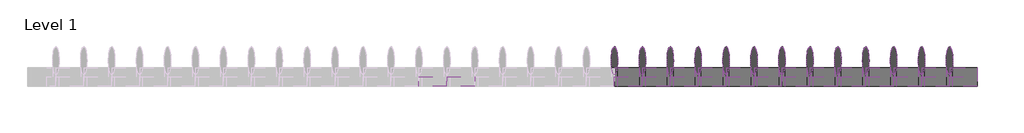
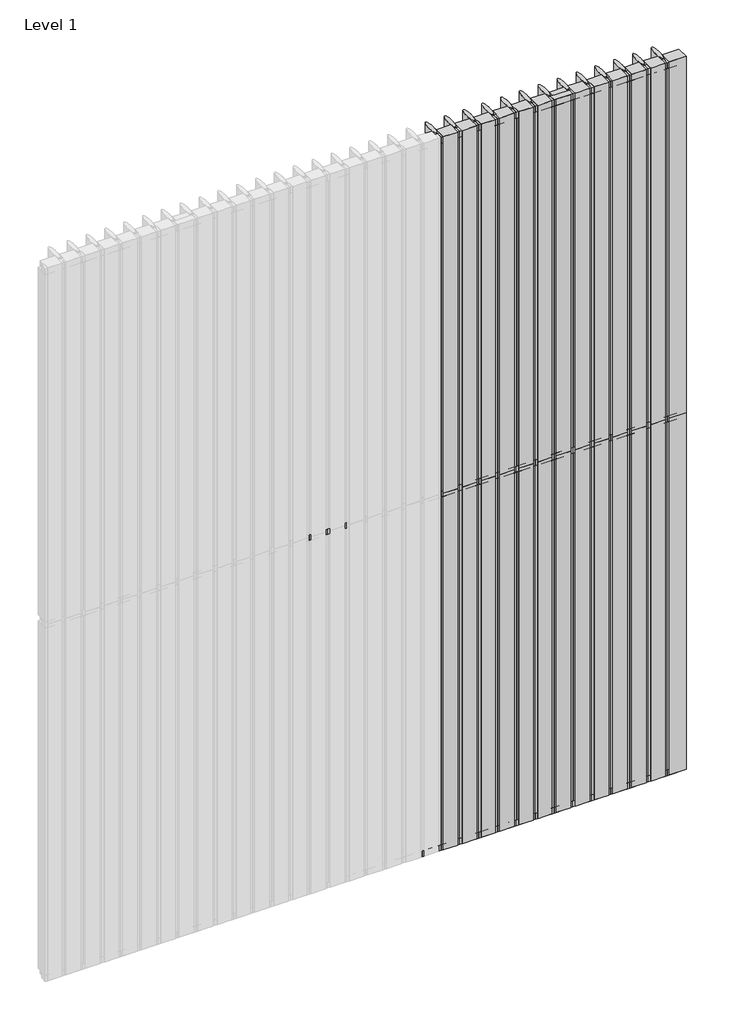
# One storey, part 3 of 3: 68 members, 52 plates.
"""IFC4 building model written with IfcOpenShell, lengths in millimetres."""

from ifc_helpers import new_model, si_unit, origin, place, context, project, spatial, transform, mapped, element, save
from components import rectangular_mullion_822d50ae, rectangular_mullion_64cc6fdd, rectangular_mullion_6265e8b1, rectangular_mullion_eb4a5411, empty_system_panel_empty_b0baf43e, empty_system_panel_empty_d245318e, empty_system_panel_empty_64907904

model = new_model("IFC4")

# Units and contexts
model_context = context("Model", 3, world=origin())
ifc_project = project(units=[si_unit("LENGTHUNIT", "METRE", prefix="MILLI")], contexts=[model_context])

# Site, building, storey
site = spatial("IfcSite", under=ifc_project)
building = spatial("IfcBuilding", under=site)
storey = spatial("IfcBuildingStorey", under=building, Name="Level 1", Elevation=0.0)

# Members
placement = place(None, origin())
rectangular_mullion_shape = rectangular_mullion_822d50ae(model_context)
element("IfcMember", 1, ObjectType="Rectangular Mullion : RSen_21_CWM_blade - 150 ellips - 0°_gen_duco projects", at=placement, inside=storey, context=model_context, shape_type="MappedRepresentation", body=[
    mapped(rectangular_mullion_shape, transform((5850.0, 3000.0, 0.0), x_axis=(-1.0, 0.0, 0.0), y_axis=(0.0, 1.0, 0.0), z_axis=(0.0, 0.0, -1.0))),
])
element("IfcMember", 2, ObjectType="Rectangular Mullion : RSen_21_CWM_blade - 150 ellips - 0°_gen_duco projects", at=placement, inside=storey, context=model_context, shape_type="MappedRepresentation", body=[
    mapped(rectangular_mullion_shape, transform((5700.0, 3000.0, 0.0), x_axis=(-1.0, 0.0, 0.0), y_axis=(0.0, 1.0, 0.0), z_axis=(0.0, 0.0, -1.0))),
])
element("IfcMember", 3, ObjectType="Rectangular Mullion : RSen_21_CWM_blade - 150 ellips - 0°_gen_duco projects", at=placement, inside=storey, context=model_context, shape_type="MappedRepresentation", body=[
    mapped(rectangular_mullion_shape, transform((5550.0, 3000.0, 0.0), x_axis=(-1.0, 0.0, 0.0), y_axis=(0.0, 1.0, 0.0), z_axis=(0.0, 0.0, -1.0))),
])
element("IfcMember", 4, ObjectType="Rectangular Mullion : RSen_21_CWM_blade - 150 ellips - 0°_gen_duco projects", at=placement, inside=storey, context=model_context, shape_type="MappedRepresentation", body=[
    mapped(rectangular_mullion_shape, transform((5400.0, 3000.0, 0.0), x_axis=(-1.0, 0.0, 0.0), y_axis=(0.0, 1.0, 0.0), z_axis=(0.0, 0.0, -1.0))),
])
element("IfcMember", 5, ObjectType="Rectangular Mullion : RSen_21_CWM_blade - 150 ellips - 0°_gen_duco projects", at=placement, inside=storey, context=model_context, shape_type="MappedRepresentation", body=[
    mapped(rectangular_mullion_shape, transform((5250.0, 3000.0, 0.0), x_axis=(-1.0, 0.0, 0.0), y_axis=(0.0, 1.0, 0.0), z_axis=(0.0, 0.0, -1.0))),
])
element("IfcMember", 6, ObjectType="Rectangular Mullion : RSen_21_CWM_blade - 150 ellips - 0°_gen_duco projects", at=placement, inside=storey, context=model_context, shape_type="MappedRepresentation", body=[
    mapped(rectangular_mullion_shape, transform((5100.0, 3000.0, 0.0), x_axis=(-1.0, 0.0, 0.0), y_axis=(0.0, 1.0, 0.0), z_axis=(0.0, 0.0, -1.0))),
])
element("IfcMember", 7, ObjectType="Rectangular Mullion : RSen_21_CWM_blade - 150 ellips - 0°_gen_duco projects", at=placement, inside=storey, context=model_context, shape_type="MappedRepresentation", body=[
    mapped(rectangular_mullion_shape, transform((4950.0, 3000.0, 0.0), x_axis=(-1.0, 0.0, 0.0), y_axis=(0.0, 1.0, 0.0), z_axis=(0.0, 0.0, -1.0))),
])
element("IfcMember", 8, ObjectType="Rectangular Mullion : RSen_21_CWM_blade - 150 ellips - 0°_gen_duco projects", at=placement, inside=storey, context=model_context, shape_type="MappedRepresentation", body=[
    mapped(rectangular_mullion_shape, transform((4800.0, 3000.0, 0.0), x_axis=(-1.0, 0.0, 0.0), y_axis=(0.0, 1.0, 0.0), z_axis=(0.0, 0.0, -1.0))),
])
element("IfcMember", 9, ObjectType="Rectangular Mullion : RSen_21_CWM_blade - 150 ellips - 0°_gen_duco projects", at=placement, inside=storey, context=model_context, shape_type="MappedRepresentation", body=[
    mapped(rectangular_mullion_shape, transform((4650.0, 3000.0, 0.0), x_axis=(-1.0, 0.0, 0.0), y_axis=(0.0, 1.0, 0.0), z_axis=(0.0, 0.0, -1.0))),
])
element("IfcMember", 10, ObjectType="Rectangular Mullion : RSen_21_CWM_blade - 150 ellips - 0°_gen_duco projects", at=placement, inside=storey, context=model_context, shape_type="MappedRepresentation", body=[
    mapped(rectangular_mullion_shape, transform((4500.0, 3000.0, 0.0), x_axis=(-1.0, 0.0, 0.0), y_axis=(0.0, 1.0, 0.0), z_axis=(0.0, 0.0, -1.0))),
])
element("IfcMember", 11, ObjectType="Rectangular Mullion : RSen_21_CWM_blade - 150 ellips - 0°_gen_duco projects", at=placement, inside=storey, context=model_context, shape_type="MappedRepresentation", body=[
    mapped(rectangular_mullion_shape, transform((4350.0, 3000.0, 0.0), x_axis=(-1.0, 0.0, 0.0), y_axis=(0.0, 1.0, 0.0), z_axis=(0.0, 0.0, -1.0))),
])
element("IfcMember", 12, ObjectType="Rectangular Mullion : RSen_21_CWM_blade - 150 ellips - 0°_gen_duco projects", at=placement, inside=storey, context=model_context, shape_type="MappedRepresentation", body=[
    mapped(rectangular_mullion_shape, transform((4200.0, 3000.0, 0.0), x_axis=(-1.0, 0.0, 0.0), y_axis=(0.0, 1.0, 0.0), z_axis=(0.0, 0.0, -1.0))),
])
element("IfcMember", 13, ObjectType="Rectangular Mullion : RSen_21_CWM_blade - 150 ellips - 0°_gen_duco projects", at=placement, inside=storey, context=model_context, shape_type="MappedRepresentation", body=[
    mapped(rectangular_mullion_shape, transform((4050.0, 3000.0, 0.0), x_axis=(-1.0, 0.0, 0.0), y_axis=(0.0, 1.0, 0.0), z_axis=(0.0, 0.0, -1.0))),
])
element("IfcMember", 14, ObjectType="Rectangular Mullion : RSen_21_CWM_blade - 150 ellips - 0°_gen_duco projects", at=placement, inside=storey, context=model_context, shape_type="MappedRepresentation", body=[
    mapped(rectangular_mullion_shape, transform((5850.0, 3000.0, 3000.0), x_axis=(-1.0, 0.0, 0.0), y_axis=(0.0, 1.0, 0.0), z_axis=(0.0, 0.0, -1.0))),
])
element("IfcMember", 15, ObjectType="Rectangular Mullion : RSen_21_CWM_blade - 150 ellips - 0°_gen_duco projects", at=placement, inside=storey, context=model_context, shape_type="MappedRepresentation", body=[
    mapped(rectangular_mullion_shape, transform((5700.0, 3000.0, 3000.0), x_axis=(-1.0, 0.0, 0.0), y_axis=(0.0, 1.0, 0.0), z_axis=(0.0, 0.0, -1.0))),
])
element("IfcMember", 16, ObjectType="Rectangular Mullion : RSen_21_CWM_blade - 150 ellips - 0°_gen_duco projects", at=placement, inside=storey, context=model_context, shape_type="MappedRepresentation", body=[
    mapped(rectangular_mullion_shape, transform((5550.0, 3000.0, 3000.0), x_axis=(-1.0, 0.0, 0.0), y_axis=(0.0, 1.0, 0.0), z_axis=(0.0, 0.0, -1.0))),
])
element("IfcMember", 17, ObjectType="Rectangular Mullion : RSen_21_CWM_blade - 150 ellips - 0°_gen_duco projects", at=placement, inside=storey, context=model_context, shape_type="MappedRepresentation", body=[
    mapped(rectangular_mullion_shape, transform((5400.0, 3000.0, 3000.0), x_axis=(-1.0, 0.0, 0.0), y_axis=(0.0, 1.0, 0.0), z_axis=(0.0, 0.0, -1.0))),
])
element("IfcMember", 18, ObjectType="Rectangular Mullion : RSen_21_CWM_blade - 150 ellips - 0°_gen_duco projects", at=placement, inside=storey, context=model_context, shape_type="MappedRepresentation", body=[
    mapped(rectangular_mullion_shape, transform((5250.0, 3000.0, 3000.0), x_axis=(-1.0, 0.0, 0.0), y_axis=(0.0, 1.0, 0.0), z_axis=(0.0, 0.0, -1.0))),
])
element("IfcMember", 19, ObjectType="Rectangular Mullion : RSen_21_CWM_blade - 150 ellips - 0°_gen_duco projects", at=placement, inside=storey, context=model_context, shape_type="MappedRepresentation", body=[
    mapped(rectangular_mullion_shape, transform((5100.0, 3000.0, 3000.0), x_axis=(-1.0, 0.0, 0.0), y_axis=(0.0, 1.0, 0.0), z_axis=(0.0, 0.0, -1.0))),
])
element("IfcMember", 20, ObjectType="Rectangular Mullion : RSen_21_CWM_blade - 150 ellips - 0°_gen_duco projects", at=placement, inside=storey, context=model_context, shape_type="MappedRepresentation", body=[
    mapped(rectangular_mullion_shape, transform((4950.0, 3000.0, 3000.0), x_axis=(-1.0, 0.0, 0.0), y_axis=(0.0, 1.0, 0.0), z_axis=(0.0, 0.0, -1.0))),
])
element("IfcMember", 21, ObjectType="Rectangular Mullion : RSen_21_CWM_blade - 150 ellips - 0°_gen_duco projects", at=placement, inside=storey, context=model_context, shape_type="MappedRepresentation", body=[
    mapped(rectangular_mullion_shape, transform((4800.0, 3000.0, 3000.0), x_axis=(-1.0, 0.0, 0.0), y_axis=(0.0, 1.0, 0.0), z_axis=(0.0, 0.0, -1.0))),
])
element("IfcMember", 22, ObjectType="Rectangular Mullion : RSen_21_CWM_blade - 150 ellips - 0°_gen_duco projects", at=placement, inside=storey, context=model_context, shape_type="MappedRepresentation", body=[
    mapped(rectangular_mullion_shape, transform((4650.0, 3000.0, 3000.0), x_axis=(-1.0, 0.0, 0.0), y_axis=(0.0, 1.0, 0.0), z_axis=(0.0, 0.0, -1.0))),
])
element("IfcMember", 23, ObjectType="Rectangular Mullion : RSen_21_CWM_blade - 150 ellips - 0°_gen_duco projects", at=placement, inside=storey, context=model_context, shape_type="MappedRepresentation", body=[
    mapped(rectangular_mullion_shape, transform((4500.0, 3000.0, 3000.0), x_axis=(-1.0, 0.0, 0.0), y_axis=(0.0, 1.0, 0.0), z_axis=(0.0, 0.0, -1.0))),
])
element("IfcMember", 24, ObjectType="Rectangular Mullion : RSen_21_CWM_blade - 150 ellips - 0°_gen_duco projects", at=placement, inside=storey, context=model_context, shape_type="MappedRepresentation", body=[
    mapped(rectangular_mullion_shape, transform((4350.0, 3000.0, 3000.0), x_axis=(-1.0, 0.0, 0.0), y_axis=(0.0, 1.0, 0.0), z_axis=(0.0, 0.0, -1.0))),
])
element("IfcMember", 25, ObjectType="Rectangular Mullion : RSen_21_CWM_blade - 150 ellips - 0°_gen_duco projects", at=placement, inside=storey, context=model_context, shape_type="MappedRepresentation", body=[
    mapped(rectangular_mullion_shape, transform((4200.0, 3000.0, 3000.0), x_axis=(-1.0, 0.0, 0.0), y_axis=(0.0, 1.0, 0.0), z_axis=(0.0, 0.0, -1.0))),
])
element("IfcMember", 26, ObjectType="Rectangular Mullion : RSen_21_CWM_blade - 150 ellips - 0°_gen_duco projects", at=placement, inside=storey, context=model_context, shape_type="MappedRepresentation", body=[
    mapped(rectangular_mullion_shape, transform((4050.0, 3000.0, 3000.0), x_axis=(-1.0, 0.0, 0.0), y_axis=(0.0, 1.0, 0.0), z_axis=(0.0, 0.0, -1.0))),
])
rectangular_mullion_2_shape = rectangular_mullion_64cc6fdd(model_context)
element("IfcMember", 27, ObjectType="Rectangular Mullion : RSen_21_CWM_support profile 50x50 - right_gen_duco projects", at=placement, inside=storey, context=model_context, shape_type="MappedRepresentation", body=[
    mapped(rectangular_mullion_2_shape, transform((6000.0, 3000.0, 0.0), x_axis=(0.0, 0.0, -1.0), y_axis=(0.0, 1.0, 0.0), z_axis=(1.0, 0.0, 0.0))),
])
rectangular_mullion_3_shape = rectangular_mullion_6265e8b1(model_context)
element("IfcMember", 28, ObjectType="Rectangular Mullion : RSen_21_CWM_support profile 50x50 - left_gen_duco projects", at=placement, inside=storey, context=model_context, shape_type="MappedRepresentation", body=[
    mapped(rectangular_mullion_3_shape, transform((5850.0, 3000.0, 6000.0), x_axis=(0.0, 0.0, 1.0), y_axis=(0.0, 1.0, 0.0), z_axis=(-1.0, 0.0, 0.0))),
])
element("IfcMember", 29, ObjectType="Rectangular Mullion : RSen_21_CWM_support profile 50x50 - left_gen_duco projects", at=placement, inside=storey, context=model_context, shape_type="MappedRepresentation", body=[
    mapped(rectangular_mullion_3_shape, transform((5700.0, 3000.0, 6000.0), x_axis=(0.0, 0.0, 1.0), y_axis=(0.0, 1.0, 0.0), z_axis=(-1.0, 0.0, 0.0))),
])
element("IfcMember", 30, ObjectType="Rectangular Mullion : RSen_21_CWM_support profile 50x50 - left_gen_duco projects", at=placement, inside=storey, context=model_context, shape_type="MappedRepresentation", body=[
    mapped(rectangular_mullion_3_shape, transform((5550.0, 3000.0, 6000.0), x_axis=(0.0, 0.0, 1.0), y_axis=(0.0, 1.0, 0.0), z_axis=(-1.0, 0.0, 0.0))),
])
element("IfcMember", 31, ObjectType="Rectangular Mullion : RSen_21_CWM_support profile 50x50 - left_gen_duco projects", at=placement, inside=storey, context=model_context, shape_type="MappedRepresentation", body=[
    mapped(rectangular_mullion_3_shape, transform((5400.0, 3000.0, 6000.0), x_axis=(0.0, 0.0, 1.0), y_axis=(0.0, 1.0, 0.0), z_axis=(-1.0, 0.0, 0.0))),
])
element("IfcMember", 32, ObjectType="Rectangular Mullion : RSen_21_CWM_support profile 50x50 - left_gen_duco projects", at=placement, inside=storey, context=model_context, shape_type="MappedRepresentation", body=[
    mapped(rectangular_mullion_3_shape, transform((5250.0, 3000.0, 6000.0), x_axis=(0.0, 0.0, 1.0), y_axis=(0.0, 1.0, 0.0), z_axis=(-1.0, 0.0, 0.0))),
])
element("IfcMember", 33, ObjectType="Rectangular Mullion : RSen_21_CWM_support profile 50x50 - left_gen_duco projects", at=placement, inside=storey, context=model_context, shape_type="MappedRepresentation", body=[
    mapped(rectangular_mullion_3_shape, transform((5100.0, 3000.0, 6000.0), x_axis=(0.0, 0.0, 1.0), y_axis=(0.0, 1.0, 0.0), z_axis=(-1.0, 0.0, 0.0))),
])
element("IfcMember", 34, ObjectType="Rectangular Mullion : RSen_21_CWM_support profile 50x50 - left_gen_duco projects", at=placement, inside=storey, context=model_context, shape_type="MappedRepresentation", body=[
    mapped(rectangular_mullion_3_shape, transform((4950.0, 3000.0, 6000.0), x_axis=(0.0, 0.0, 1.0), y_axis=(0.0, 1.0, 0.0), z_axis=(-1.0, 0.0, 0.0))),
])
element("IfcMember", 35, ObjectType="Rectangular Mullion : RSen_21_CWM_support profile 50x50 - left_gen_duco projects", at=placement, inside=storey, context=model_context, shape_type="MappedRepresentation", body=[
    mapped(rectangular_mullion_3_shape, transform((4800.0, 3000.0, 6000.0), x_axis=(0.0, 0.0, 1.0), y_axis=(0.0, 1.0, 0.0), z_axis=(-1.0, 0.0, 0.0))),
])
element("IfcMember", 36, ObjectType="Rectangular Mullion : RSen_21_CWM_support profile 50x50 - left_gen_duco projects", at=placement, inside=storey, context=model_context, shape_type="MappedRepresentation", body=[
    mapped(rectangular_mullion_3_shape, transform((4650.0, 3000.0, 6000.0), x_axis=(0.0, 0.0, 1.0), y_axis=(0.0, 1.0, 0.0), z_axis=(-1.0, 0.0, 0.0))),
])
element("IfcMember", 37, ObjectType="Rectangular Mullion : RSen_21_CWM_support profile 50x50 - left_gen_duco projects", at=placement, inside=storey, context=model_context, shape_type="MappedRepresentation", body=[
    mapped(rectangular_mullion_3_shape, transform((4500.0, 3000.0, 6000.0), x_axis=(0.0, 0.0, 1.0), y_axis=(0.0, 1.0, 0.0), z_axis=(-1.0, 0.0, 0.0))),
])
element("IfcMember", 38, ObjectType="Rectangular Mullion : RSen_21_CWM_support profile 50x50 - left_gen_duco projects", at=placement, inside=storey, context=model_context, shape_type="MappedRepresentation", body=[
    mapped(rectangular_mullion_3_shape, transform((4350.0, 3000.0, 6000.0), x_axis=(0.0, 0.0, 1.0), y_axis=(0.0, 1.0, 0.0), z_axis=(-1.0, 0.0, 0.0))),
])
element("IfcMember", 39, ObjectType="Rectangular Mullion : RSen_21_CWM_support profile 50x50 - left_gen_duco projects", at=placement, inside=storey, context=model_context, shape_type="MappedRepresentation", body=[
    mapped(rectangular_mullion_3_shape, transform((4200.0, 3000.0, 6000.0), x_axis=(0.0, 0.0, 1.0), y_axis=(0.0, 1.0, 0.0), z_axis=(-1.0, 0.0, 0.0))),
])
element("IfcMember", 40, ObjectType="Rectangular Mullion : RSen_21_CWM_support profile 50x50 - left_gen_duco projects", at=placement, inside=storey, context=model_context, shape_type="MappedRepresentation", body=[
    mapped(rectangular_mullion_3_shape, transform((4050.0, 3000.0, 6000.0), x_axis=(0.0, 0.0, 1.0), y_axis=(0.0, 1.0, 0.0), z_axis=(-1.0, 0.0, 0.0))),
])
element("IfcMember", 41, ObjectType="Rectangular Mullion : RSen_21_CWM_support profile 50x50 - right_gen_duco projects", at=placement, inside=storey, context=model_context, shape_type="MappedRepresentation", body=[
    mapped(rectangular_mullion_2_shape, transform((5850.0, 3000.0, 0.0), x_axis=(0.0, 0.0, -1.0), y_axis=(0.0, 1.0, 0.0), z_axis=(1.0, 0.0, 0.0))),
])
element("IfcMember", 42, ObjectType="Rectangular Mullion : RSen_21_CWM_support profile 50x50 - right_gen_duco projects", at=placement, inside=storey, context=model_context, shape_type="MappedRepresentation", body=[
    mapped(rectangular_mullion_2_shape, transform((5700.0, 3000.0, 0.0), x_axis=(0.0, 0.0, -1.0), y_axis=(0.0, 1.0, 0.0), z_axis=(1.0, 0.0, 0.0))),
])
element("IfcMember", 43, ObjectType="Rectangular Mullion : RSen_21_CWM_support profile 50x50 - right_gen_duco projects", at=placement, inside=storey, context=model_context, shape_type="MappedRepresentation", body=[
    mapped(rectangular_mullion_2_shape, transform((5550.0, 3000.0, 0.0), x_axis=(0.0, 0.0, -1.0), y_axis=(0.0, 1.0, 0.0), z_axis=(1.0, 0.0, 0.0))),
])
element("IfcMember", 44, ObjectType="Rectangular Mullion : RSen_21_CWM_support profile 50x50 - right_gen_duco projects", at=placement, inside=storey, context=model_context, shape_type="MappedRepresentation", body=[
    mapped(rectangular_mullion_2_shape, transform((5400.0, 3000.0, 0.0), x_axis=(0.0, 0.0, -1.0), y_axis=(0.0, 1.0, 0.0), z_axis=(1.0, 0.0, 0.0))),
])
element("IfcMember", 45, ObjectType="Rectangular Mullion : RSen_21_CWM_support profile 50x50 - right_gen_duco projects", at=placement, inside=storey, context=model_context, shape_type="MappedRepresentation", body=[
    mapped(rectangular_mullion_2_shape, transform((5250.0, 3000.0, 0.0), x_axis=(0.0, 0.0, -1.0), y_axis=(0.0, 1.0, 0.0), z_axis=(1.0, 0.0, 0.0))),
])
element("IfcMember", 46, ObjectType="Rectangular Mullion : RSen_21_CWM_support profile 50x50 - right_gen_duco projects", at=placement, inside=storey, context=model_context, shape_type="MappedRepresentation", body=[
    mapped(rectangular_mullion_2_shape, transform((5100.0, 3000.0, 0.0), x_axis=(0.0, 0.0, -1.0), y_axis=(0.0, 1.0, 0.0), z_axis=(1.0, 0.0, 0.0))),
])
element("IfcMember", 47, ObjectType="Rectangular Mullion : RSen_21_CWM_support profile 50x50 - right_gen_duco projects", at=placement, inside=storey, context=model_context, shape_type="MappedRepresentation", body=[
    mapped(rectangular_mullion_2_shape, transform((4950.0, 3000.0, 0.0), x_axis=(0.0, 0.0, -1.0), y_axis=(0.0, 1.0, 0.0), z_axis=(1.0, 0.0, 0.0))),
])
element("IfcMember", 48, ObjectType="Rectangular Mullion : RSen_21_CWM_support profile 50x50 - right_gen_duco projects", at=placement, inside=storey, context=model_context, shape_type="MappedRepresentation", body=[
    mapped(rectangular_mullion_2_shape, transform((4800.0, 3000.0, 0.0), x_axis=(0.0, 0.0, -1.0), y_axis=(0.0, 1.0, 0.0), z_axis=(1.0, 0.0, 0.0))),
])
element("IfcMember", 49, ObjectType="Rectangular Mullion : RSen_21_CWM_support profile 50x50 - right_gen_duco projects", at=placement, inside=storey, context=model_context, shape_type="MappedRepresentation", body=[
    mapped(rectangular_mullion_2_shape, transform((4650.0, 3000.0, 0.0), x_axis=(0.0, 0.0, -1.0), y_axis=(0.0, 1.0, 0.0), z_axis=(1.0, 0.0, 0.0))),
])
element("IfcMember", 50, ObjectType="Rectangular Mullion : RSen_21_CWM_support profile 50x50 - right_gen_duco projects", at=placement, inside=storey, context=model_context, shape_type="MappedRepresentation", body=[
    mapped(rectangular_mullion_2_shape, transform((4500.0, 3000.0, 0.0), x_axis=(0.0, 0.0, -1.0), y_axis=(0.0, 1.0, 0.0), z_axis=(1.0, 0.0, 0.0))),
])
element("IfcMember", 51, ObjectType="Rectangular Mullion : RSen_21_CWM_support profile 50x50 - right_gen_duco projects", at=placement, inside=storey, context=model_context, shape_type="MappedRepresentation", body=[
    mapped(rectangular_mullion_2_shape, transform((4350.0, 3000.0, 0.0), x_axis=(0.0, 0.0, -1.0), y_axis=(0.0, 1.0, 0.0), z_axis=(1.0, 0.0, 0.0))),
])
element("IfcMember", 52, ObjectType="Rectangular Mullion : RSen_21_CWM_support profile 50x50 - right_gen_duco projects", at=placement, inside=storey, context=model_context, shape_type="MappedRepresentation", body=[
    mapped(rectangular_mullion_2_shape, transform((4200.0, 3000.0, 0.0), x_axis=(0.0, 0.0, -1.0), y_axis=(0.0, 1.0, 0.0), z_axis=(1.0, 0.0, 0.0))),
])
element("IfcMember", 53, ObjectType="Rectangular Mullion : RSen_21_CWM_support profile 50x50 - right_gen_duco projects", at=placement, inside=storey, context=model_context, shape_type="MappedRepresentation", body=[
    mapped(rectangular_mullion_2_shape, transform((4050.0, 3000.0, 0.0), x_axis=(0.0, 0.0, -1.0), y_axis=(0.0, 1.0, 0.0), z_axis=(1.0, 0.0, 0.0))),
])
rectangular_mullion_4_shape = rectangular_mullion_eb4a5411(model_context)
element("IfcMember", 54, ObjectType="Rectangular Mullion : RSen_21_CWM_support profile 50x50_gen_duco projects", at=placement, inside=storey, context=model_context, shape_type="MappedRepresentation", body=[
    mapped(rectangular_mullion_4_shape, transform((5850.0, 3000.0, 3000.0), x_axis=(0.0, 0.0, 1.0), y_axis=(0.0, 1.0, 0.0), z_axis=(-1.0, 0.0, 0.0))),
])
element("IfcMember", 55, ObjectType="Rectangular Mullion : RSen_21_CWM_support profile 50x50_gen_duco projects", at=placement, inside=storey, context=model_context, shape_type="MappedRepresentation", body=[
    mapped(rectangular_mullion_4_shape, transform((5700.0, 3000.0, 3000.0), x_axis=(0.0, 0.0, 1.0), y_axis=(0.0, 1.0, 0.0), z_axis=(-1.0, 0.0, 0.0))),
])
element("IfcMember", 56, ObjectType="Rectangular Mullion : RSen_21_CWM_support profile 50x50_gen_duco projects", at=placement, inside=storey, context=model_context, shape_type="MappedRepresentation", body=[
    mapped(rectangular_mullion_4_shape, transform((5550.0, 3000.0, 3000.0), x_axis=(0.0, 0.0, 1.0), y_axis=(0.0, 1.0, 0.0), z_axis=(-1.0, 0.0, 0.0))),
])
element("IfcMember", 57, ObjectType="Rectangular Mullion : RSen_21_CWM_support profile 50x50_gen_duco projects", at=placement, inside=storey, context=model_context, shape_type="MappedRepresentation", body=[
    mapped(rectangular_mullion_4_shape, transform((5400.0, 3000.0, 3000.0), x_axis=(0.0, 0.0, 1.0), y_axis=(0.0, 1.0, 0.0), z_axis=(-1.0, 0.0, 0.0))),
])
element("IfcMember", 58, ObjectType="Rectangular Mullion : RSen_21_CWM_support profile 50x50_gen_duco projects", at=placement, inside=storey, context=model_context, shape_type="MappedRepresentation", body=[
    mapped(rectangular_mullion_4_shape, transform((5250.0, 3000.0, 3000.0), x_axis=(0.0, 0.0, 1.0), y_axis=(0.0, 1.0, 0.0), z_axis=(-1.0, 0.0, 0.0))),
])
element("IfcMember", 59, ObjectType="Rectangular Mullion : RSen_21_CWM_support profile 50x50_gen_duco projects", at=placement, inside=storey, context=model_context, shape_type="MappedRepresentation", body=[
    mapped(rectangular_mullion_4_shape, transform((5100.0, 3000.0, 3000.0), x_axis=(0.0, 0.0, 1.0), y_axis=(0.0, 1.0, 0.0), z_axis=(-1.0, 0.0, 0.0))),
])
element("IfcMember", 60, ObjectType="Rectangular Mullion : RSen_21_CWM_support profile 50x50_gen_duco projects", at=placement, inside=storey, context=model_context, shape_type="MappedRepresentation", body=[
    mapped(rectangular_mullion_4_shape, transform((4950.0, 3000.0, 3000.0), x_axis=(0.0, 0.0, 1.0), y_axis=(0.0, 1.0, 0.0), z_axis=(-1.0, 0.0, 0.0))),
])
element("IfcMember", 61, ObjectType="Rectangular Mullion : RSen_21_CWM_support profile 50x50_gen_duco projects", at=placement, inside=storey, context=model_context, shape_type="MappedRepresentation", body=[
    mapped(rectangular_mullion_4_shape, transform((4800.0, 3000.0, 3000.0), x_axis=(0.0, 0.0, 1.0), y_axis=(0.0, 1.0, 0.0), z_axis=(-1.0, 0.0, 0.0))),
])
element("IfcMember", 62, ObjectType="Rectangular Mullion : RSen_21_CWM_support profile 50x50_gen_duco projects", at=placement, inside=storey, context=model_context, shape_type="MappedRepresentation", body=[
    mapped(rectangular_mullion_4_shape, transform((4650.0, 3000.0, 3000.0), x_axis=(0.0, 0.0, 1.0), y_axis=(0.0, 1.0, 0.0), z_axis=(-1.0, 0.0, 0.0))),
])
element("IfcMember", 63, ObjectType="Rectangular Mullion : RSen_21_CWM_support profile 50x50_gen_duco projects", at=placement, inside=storey, context=model_context, shape_type="MappedRepresentation", body=[
    mapped(rectangular_mullion_4_shape, transform((4500.0, 3000.0, 3000.0), x_axis=(0.0, 0.0, 1.0), y_axis=(0.0, 1.0, 0.0), z_axis=(-1.0, 0.0, 0.0))),
])
element("IfcMember", 64, ObjectType="Rectangular Mullion : RSen_21_CWM_support profile 50x50_gen_duco projects", at=placement, inside=storey, context=model_context, shape_type="MappedRepresentation", body=[
    mapped(rectangular_mullion_4_shape, transform((4350.0, 3000.0, 3000.0), x_axis=(0.0, 0.0, 1.0), y_axis=(0.0, 1.0, 0.0), z_axis=(-1.0, 0.0, 0.0))),
])
element("IfcMember", 65, ObjectType="Rectangular Mullion : RSen_21_CWM_support profile 50x50_gen_duco projects", at=placement, inside=storey, context=model_context, shape_type="MappedRepresentation", body=[
    mapped(rectangular_mullion_4_shape, transform((4200.0, 3000.0, 3000.0), x_axis=(0.0, 0.0, 1.0), y_axis=(0.0, 1.0, 0.0), z_axis=(-1.0, 0.0, 0.0))),
])
element("IfcMember", 66, ObjectType="Rectangular Mullion : RSen_21_CWM_support profile 50x50_gen_duco projects", at=placement, inside=storey, context=model_context, shape_type="MappedRepresentation", body=[
    mapped(rectangular_mullion_4_shape, transform((4050.0, 3000.0, 3000.0), x_axis=(0.0, 0.0, 1.0), y_axis=(0.0, 1.0, 0.0), z_axis=(-1.0, 0.0, 0.0))),
])
element("IfcMember", 67, ObjectType="Rectangular Mullion : RSen_21_CWM_support profile 50x50_gen_duco projects", at=placement, inside=storey, context=model_context, shape_type="MappedRepresentation", body=[
    mapped(rectangular_mullion_4_shape, transform((3150.0, 3000.0, 3000.0), x_axis=(0.0, 0.0, 1.0), y_axis=(0.0, 1.0, 0.0), z_axis=(-1.0, 0.0, 0.0))),
])
element("IfcMember", 68, ObjectType="Rectangular Mullion : RSen_21_CWM_support profile 50x50_gen_duco projects", at=placement, inside=storey, context=model_context, shape_type="MappedRepresentation", body=[
    mapped(rectangular_mullion_4_shape, transform((3000.0, 3000.0, 3000.0), x_axis=(0.0, 0.0, 1.0), y_axis=(0.0, 1.0, 0.0), z_axis=(-1.0, 0.0, 0.0))),
])

# Plates
empty_system_panel_empty_shape = empty_system_panel_empty_b0baf43e(model_context)
element("IfcPlate", 69, ObjectType="Empty System Panel : Empty", at=placement, inside=storey, context=model_context, shape_type="MappedRepresentation", body=[
    mapped(empty_system_panel_empty_shape, transform((5933.75, 3000.0, 0.0), x_axis=(-1.0, 0.0, 0.0), y_axis=(0.0, -1.0, 0.0), z_axis=(0.0, 0.0, 1.0))),
])
element("IfcPlate", 70, ObjectType="Empty System Panel : Empty", at=placement, inside=storey, context=model_context, shape_type="MappedRepresentation", body=[
    mapped(empty_system_panel_empty_shape, transform((5933.75, 3000.0, 3000.0), x_axis=(-1.0, 0.0, 0.0), y_axis=(0.0, -1.0, 0.0), z_axis=(0.0, 0.0, 1.0))),
])
empty_system_panel_empty_2_shape = empty_system_panel_empty_d245318e(model_context)
element("IfcPlate", 71, ObjectType="Empty System Panel : Empty", at=placement, inside=storey, context=model_context, shape_type="MappedRepresentation", body=[
    mapped(empty_system_panel_empty_2_shape, transform((5775.0, 3000.0, 0.0), x_axis=(-1.0, 0.0, 0.0), y_axis=(0.0, -1.0, 0.0), z_axis=(0.0, 0.0, 1.0))),
])
element("IfcPlate", 72, ObjectType="Empty System Panel : Empty", at=placement, inside=storey, context=model_context, shape_type="MappedRepresentation", body=[
    mapped(empty_system_panel_empty_2_shape, transform((5625.0, 3000.0, 0.0), x_axis=(-1.0, 0.0, 0.0), y_axis=(0.0, -1.0, 0.0), z_axis=(0.0, 0.0, 1.0))),
])
element("IfcPlate", 73, ObjectType="Empty System Panel : Empty", at=placement, inside=storey, context=model_context, shape_type="MappedRepresentation", body=[
    mapped(empty_system_panel_empty_2_shape, transform((5475.0, 3000.0, 0.0), x_axis=(-1.0, 0.0, 0.0), y_axis=(0.0, -1.0, 0.0), z_axis=(0.0, 0.0, 1.0))),
])
element("IfcPlate", 74, ObjectType="Empty System Panel : Empty", at=placement, inside=storey, context=model_context, shape_type="MappedRepresentation", body=[
    mapped(empty_system_panel_empty_2_shape, transform((5325.0, 3000.0, 0.0), x_axis=(-1.0, 0.0, 0.0), y_axis=(0.0, -1.0, 0.0), z_axis=(0.0, 0.0, 1.0))),
])
element("IfcPlate", 75, ObjectType="Empty System Panel : Empty", at=placement, inside=storey, context=model_context, shape_type="MappedRepresentation", body=[
    mapped(empty_system_panel_empty_2_shape, transform((5175.0, 3000.0, 0.0), x_axis=(-1.0, 0.0, 0.0), y_axis=(0.0, -1.0, 0.0), z_axis=(0.0, 0.0, 1.0))),
])
element("IfcPlate", 76, ObjectType="Empty System Panel : Empty", at=placement, inside=storey, context=model_context, shape_type="MappedRepresentation", body=[
    mapped(empty_system_panel_empty_2_shape, transform((5025.0, 3000.0, 0.0), x_axis=(-1.0, 0.0, 0.0), y_axis=(0.0, -1.0, 0.0), z_axis=(0.0, 0.0, 1.0))),
])
element("IfcPlate", 77, ObjectType="Empty System Panel : Empty", at=placement, inside=storey, context=model_context, shape_type="MappedRepresentation", body=[
    mapped(empty_system_panel_empty_2_shape, transform((4875.0, 3000.0, 0.0), x_axis=(-1.0, 0.0, 0.0), y_axis=(0.0, -1.0, 0.0), z_axis=(0.0, 0.0, 1.0))),
])
element("IfcPlate", 78, ObjectType="Empty System Panel : Empty", at=placement, inside=storey, context=model_context, shape_type="MappedRepresentation", body=[
    mapped(empty_system_panel_empty_2_shape, transform((4725.0, 3000.0, 0.0), x_axis=(-1.0, 0.0, 0.0), y_axis=(0.0, -1.0, 0.0), z_axis=(0.0, 0.0, 1.0))),
])
element("IfcPlate", 79, ObjectType="Empty System Panel : Empty", at=placement, inside=storey, context=model_context, shape_type="MappedRepresentation", body=[
    mapped(empty_system_panel_empty_2_shape, transform((4575.0, 3000.0, 0.0), x_axis=(-1.0, 0.0, 0.0), y_axis=(0.0, -1.0, 0.0), z_axis=(0.0, 0.0, 1.0))),
])
element("IfcPlate", 80, ObjectType="Empty System Panel : Empty", at=placement, inside=storey, context=model_context, shape_type="MappedRepresentation", body=[
    mapped(empty_system_panel_empty_2_shape, transform((4425.0, 3000.0, 0.0), x_axis=(-1.0, 0.0, 0.0), y_axis=(0.0, -1.0, 0.0), z_axis=(0.0, 0.0, 1.0))),
])
element("IfcPlate", 81, ObjectType="Empty System Panel : Empty", at=placement, inside=storey, context=model_context, shape_type="MappedRepresentation", body=[
    mapped(empty_system_panel_empty_2_shape, transform((4275.0, 3000.0, 0.0), x_axis=(-1.0, 0.0, 0.0), y_axis=(0.0, -1.0, 0.0), z_axis=(0.0, 0.0, 1.0))),
])
element("IfcPlate", 82, ObjectType="Empty System Panel : Empty", at=placement, inside=storey, context=model_context, shape_type="MappedRepresentation", body=[
    mapped(empty_system_panel_empty_2_shape, transform((4125.0, 3000.0, 0.0), x_axis=(-1.0, 0.0, 0.0), y_axis=(0.0, -1.0, 0.0), z_axis=(0.0, 0.0, 1.0))),
])
element("IfcPlate", 83, ObjectType="Empty System Panel : Empty", at=placement, inside=storey, context=model_context, shape_type="MappedRepresentation", body=[
    mapped(empty_system_panel_empty_2_shape, transform((5775.0, 3000.0, 3000.0), x_axis=(-1.0, 0.0, 0.0), y_axis=(0.0, -1.0, 0.0), z_axis=(0.0, 0.0, 1.0))),
])
element("IfcPlate", 84, ObjectType="Empty System Panel : Empty", at=placement, inside=storey, context=model_context, shape_type="MappedRepresentation", body=[
    mapped(empty_system_panel_empty_2_shape, transform((5625.0, 3000.0, 3000.0), x_axis=(-1.0, 0.0, 0.0), y_axis=(0.0, -1.0, 0.0), z_axis=(0.0, 0.0, 1.0))),
])
element("IfcPlate", 85, ObjectType="Empty System Panel : Empty", at=placement, inside=storey, context=model_context, shape_type="MappedRepresentation", body=[
    mapped(empty_system_panel_empty_2_shape, transform((5475.0, 3000.0, 3000.0), x_axis=(-1.0, 0.0, 0.0), y_axis=(0.0, -1.0, 0.0), z_axis=(0.0, 0.0, 1.0))),
])
element("IfcPlate", 86, ObjectType="Empty System Panel : Empty", at=placement, inside=storey, context=model_context, shape_type="MappedRepresentation", body=[
    mapped(empty_system_panel_empty_2_shape, transform((5325.0, 3000.0, 3000.0), x_axis=(-1.0, 0.0, 0.0), y_axis=(0.0, -1.0, 0.0), z_axis=(0.0, 0.0, 1.0))),
])
element("IfcPlate", 87, ObjectType="Empty System Panel : Empty", at=placement, inside=storey, context=model_context, shape_type="MappedRepresentation", body=[
    mapped(empty_system_panel_empty_2_shape, transform((5175.0, 3000.0, 3000.0), x_axis=(-1.0, 0.0, 0.0), y_axis=(0.0, -1.0, 0.0), z_axis=(0.0, 0.0, 1.0))),
])
element("IfcPlate", 88, ObjectType="Empty System Panel : Empty", at=placement, inside=storey, context=model_context, shape_type="MappedRepresentation", body=[
    mapped(empty_system_panel_empty_2_shape, transform((5025.0, 3000.0, 3000.0), x_axis=(-1.0, 0.0, 0.0), y_axis=(0.0, -1.0, 0.0), z_axis=(0.0, 0.0, 1.0))),
])
element("IfcPlate", 89, ObjectType="Empty System Panel : Empty", at=placement, inside=storey, context=model_context, shape_type="MappedRepresentation", body=[
    mapped(empty_system_panel_empty_2_shape, transform((4875.0, 3000.0, 3000.0), x_axis=(-1.0, 0.0, 0.0), y_axis=(0.0, -1.0, 0.0), z_axis=(0.0, 0.0, 1.0))),
])
element("IfcPlate", 90, ObjectType="Empty System Panel : Empty", at=placement, inside=storey, context=model_context, shape_type="MappedRepresentation", body=[
    mapped(empty_system_panel_empty_2_shape, transform((4725.0, 3000.0, 3000.0), x_axis=(-1.0, 0.0, 0.0), y_axis=(0.0, -1.0, 0.0), z_axis=(0.0, 0.0, 1.0))),
])
element("IfcPlate", 91, ObjectType="Empty System Panel : Empty", at=placement, inside=storey, context=model_context, shape_type="MappedRepresentation", body=[
    mapped(empty_system_panel_empty_2_shape, transform((4575.0, 3000.0, 3000.0), x_axis=(-1.0, 0.0, 0.0), y_axis=(0.0, -1.0, 0.0), z_axis=(0.0, 0.0, 1.0))),
])
element("IfcPlate", 92, ObjectType="Empty System Panel : Empty", at=placement, inside=storey, context=model_context, shape_type="MappedRepresentation", body=[
    mapped(empty_system_panel_empty_2_shape, transform((4425.0, 3000.0, 3000.0), x_axis=(-1.0, 0.0, 0.0), y_axis=(0.0, -1.0, 0.0), z_axis=(0.0, 0.0, 1.0))),
])
element("IfcPlate", 93, ObjectType="Empty System Panel : Empty", at=placement, inside=storey, context=model_context, shape_type="MappedRepresentation", body=[
    mapped(empty_system_panel_empty_2_shape, transform((4275.0, 3000.0, 3000.0), x_axis=(-1.0, 0.0, 0.0), y_axis=(0.0, -1.0, 0.0), z_axis=(0.0, 0.0, 1.0))),
])
element("IfcPlate", 94, ObjectType="Empty System Panel : Empty", at=placement, inside=storey, context=model_context, shape_type="MappedRepresentation", body=[
    mapped(empty_system_panel_empty_2_shape, transform((4125.0, 3000.0, 3000.0), x_axis=(-1.0, 0.0, 0.0), y_axis=(0.0, -1.0, 0.0), z_axis=(0.0, 0.0, 1.0))),
])
empty_system_panel_empty_3_shape = empty_system_panel_empty_64907904(model_context)
element("IfcPlate", 95, ObjectType="Empty System Panel : Empty", at=placement, inside=storey, context=model_context, shape_type="MappedRepresentation", body=[
    mapped(empty_system_panel_empty_3_shape, transform((5925.0, 3000.0, 50.0), x_axis=(-1.0, 0.0, 0.0), y_axis=(0.0, -1.0, 0.0), z_axis=(0.0, 0.0, 1.0))),
])
element("IfcPlate", 96, ObjectType="Empty System Panel : Empty", at=placement, inside=storey, context=model_context, shape_type="MappedRepresentation", body=[
    mapped(empty_system_panel_empty_3_shape, transform((5775.0, 3000.0, 50.0), x_axis=(-1.0, 0.0, 0.0), y_axis=(0.0, -1.0, 0.0), z_axis=(0.0, 0.0, 1.0))),
])
element("IfcPlate", 97, ObjectType="Empty System Panel : Empty", at=placement, inside=storey, context=model_context, shape_type="MappedRepresentation", body=[
    mapped(empty_system_panel_empty_3_shape, transform((5625.0, 3000.0, 50.0), x_axis=(-1.0, 0.0, 0.0), y_axis=(0.0, -1.0, 0.0), z_axis=(0.0, 0.0, 1.0))),
])
element("IfcPlate", 98, ObjectType="Empty System Panel : Empty", at=placement, inside=storey, context=model_context, shape_type="MappedRepresentation", body=[
    mapped(empty_system_panel_empty_3_shape, transform((5475.0, 3000.0, 50.0), x_axis=(-1.0, 0.0, 0.0), y_axis=(0.0, -1.0, 0.0), z_axis=(0.0, 0.0, 1.0))),
])
element("IfcPlate", 99, ObjectType="Empty System Panel : Empty", at=placement, inside=storey, context=model_context, shape_type="MappedRepresentation", body=[
    mapped(empty_system_panel_empty_3_shape, transform((5325.0, 3000.0, 50.0), x_axis=(-1.0, 0.0, 0.0), y_axis=(0.0, -1.0, 0.0), z_axis=(0.0, 0.0, 1.0))),
])
element("IfcPlate", 100, ObjectType="Empty System Panel : Empty", at=placement, inside=storey, context=model_context, shape_type="MappedRepresentation", body=[
    mapped(empty_system_panel_empty_3_shape, transform((5175.0, 3000.0, 50.0), x_axis=(-1.0, 0.0, 0.0), y_axis=(0.0, -1.0, 0.0), z_axis=(0.0, 0.0, 1.0))),
])
element("IfcPlate", 101, ObjectType="Empty System Panel : Empty", at=placement, inside=storey, context=model_context, shape_type="MappedRepresentation", body=[
    mapped(empty_system_panel_empty_3_shape, transform((5025.0, 3000.0, 50.0), x_axis=(-1.0, 0.0, 0.0), y_axis=(0.0, -1.0, 0.0), z_axis=(0.0, 0.0, 1.0))),
])
element("IfcPlate", 102, ObjectType="Empty System Panel : Empty", at=placement, inside=storey, context=model_context, shape_type="MappedRepresentation", body=[
    mapped(empty_system_panel_empty_3_shape, transform((4875.0, 3000.0, 50.0), x_axis=(-1.0, 0.0, 0.0), y_axis=(0.0, -1.0, 0.0), z_axis=(0.0, 0.0, 1.0))),
])
element("IfcPlate", 103, ObjectType="Empty System Panel : Empty", at=placement, inside=storey, context=model_context, shape_type="MappedRepresentation", body=[
    mapped(empty_system_panel_empty_3_shape, transform((4725.0, 3000.0, 50.0), x_axis=(-1.0, 0.0, 0.0), y_axis=(0.0, -1.0, 0.0), z_axis=(0.0, 0.0, 1.0))),
])
element("IfcPlate", 104, ObjectType="Empty System Panel : Empty", at=placement, inside=storey, context=model_context, shape_type="MappedRepresentation", body=[
    mapped(empty_system_panel_empty_3_shape, transform((4575.0, 3000.0, 50.0), x_axis=(-1.0, 0.0, 0.0), y_axis=(0.0, -1.0, 0.0), z_axis=(0.0, 0.0, 1.0))),
])
element("IfcPlate", 105, ObjectType="Empty System Panel : Empty", at=placement, inside=storey, context=model_context, shape_type="MappedRepresentation", body=[
    mapped(empty_system_panel_empty_3_shape, transform((4425.0, 3000.0, 50.0), x_axis=(-1.0, 0.0, 0.0), y_axis=(0.0, -1.0, 0.0), z_axis=(0.0, 0.0, 1.0))),
])
element("IfcPlate", 106, ObjectType="Empty System Panel : Empty", at=placement, inside=storey, context=model_context, shape_type="MappedRepresentation", body=[
    mapped(empty_system_panel_empty_3_shape, transform((4275.0, 3000.0, 50.0), x_axis=(-1.0, 0.0, 0.0), y_axis=(0.0, -1.0, 0.0), z_axis=(0.0, 0.0, 1.0))),
])
element("IfcPlate", 107, ObjectType="Empty System Panel : Empty", at=placement, inside=storey, context=model_context, shape_type="MappedRepresentation", body=[
    mapped(empty_system_panel_empty_3_shape, transform((4125.0, 3000.0, 50.0), x_axis=(-1.0, 0.0, 0.0), y_axis=(0.0, -1.0, 0.0), z_axis=(0.0, 0.0, 1.0))),
])
element("IfcPlate", 108, ObjectType="Empty System Panel : Empty", at=placement, inside=storey, context=model_context, shape_type="MappedRepresentation", body=[
    mapped(empty_system_panel_empty_3_shape, transform((5925.0, 3000.0, 3025.0), x_axis=(-1.0, 0.0, 0.0), y_axis=(0.0, -1.0, 0.0), z_axis=(0.0, 0.0, 1.0))),
])
element("IfcPlate", 109, ObjectType="Empty System Panel : Empty", at=placement, inside=storey, context=model_context, shape_type="MappedRepresentation", body=[
    mapped(empty_system_panel_empty_3_shape, transform((5775.0, 3000.0, 3025.0), x_axis=(-1.0, 0.0, 0.0), y_axis=(0.0, -1.0, 0.0), z_axis=(0.0, 0.0, 1.0))),
])
element("IfcPlate", 110, ObjectType="Empty System Panel : Empty", at=placement, inside=storey, context=model_context, shape_type="MappedRepresentation", body=[
    mapped(empty_system_panel_empty_3_shape, transform((5625.0, 3000.0, 3025.0), x_axis=(-1.0, 0.0, 0.0), y_axis=(0.0, -1.0, 0.0), z_axis=(0.0, 0.0, 1.0))),
])
element("IfcPlate", 111, ObjectType="Empty System Panel : Empty", at=placement, inside=storey, context=model_context, shape_type="MappedRepresentation", body=[
    mapped(empty_system_panel_empty_3_shape, transform((5475.0, 3000.0, 3025.0), x_axis=(-1.0, 0.0, 0.0), y_axis=(0.0, -1.0, 0.0), z_axis=(0.0, 0.0, 1.0))),
])
element("IfcPlate", 112, ObjectType="Empty System Panel : Empty", at=placement, inside=storey, context=model_context, shape_type="MappedRepresentation", body=[
    mapped(empty_system_panel_empty_3_shape, transform((5325.0, 3000.0, 3025.0), x_axis=(-1.0, 0.0, 0.0), y_axis=(0.0, -1.0, 0.0), z_axis=(0.0, 0.0, 1.0))),
])
element("IfcPlate", 113, ObjectType="Empty System Panel : Empty", at=placement, inside=storey, context=model_context, shape_type="MappedRepresentation", body=[
    mapped(empty_system_panel_empty_3_shape, transform((5175.0, 3000.0, 3025.0), x_axis=(-1.0, 0.0, 0.0), y_axis=(0.0, -1.0, 0.0), z_axis=(0.0, 0.0, 1.0))),
])
element("IfcPlate", 114, ObjectType="Empty System Panel : Empty", at=placement, inside=storey, context=model_context, shape_type="MappedRepresentation", body=[
    mapped(empty_system_panel_empty_3_shape, transform((5025.0, 3000.0, 3025.0), x_axis=(-1.0, 0.0, 0.0), y_axis=(0.0, -1.0, 0.0), z_axis=(0.0, 0.0, 1.0))),
])
element("IfcPlate", 115, ObjectType="Empty System Panel : Empty", at=placement, inside=storey, context=model_context, shape_type="MappedRepresentation", body=[
    mapped(empty_system_panel_empty_3_shape, transform((4875.0, 3000.0, 3025.0), x_axis=(-1.0, 0.0, 0.0), y_axis=(0.0, -1.0, 0.0), z_axis=(0.0, 0.0, 1.0))),
])
element("IfcPlate", 116, ObjectType="Empty System Panel : Empty", at=placement, inside=storey, context=model_context, shape_type="MappedRepresentation", body=[
    mapped(empty_system_panel_empty_3_shape, transform((4725.0, 3000.0, 3025.0), x_axis=(-1.0, 0.0, 0.0), y_axis=(0.0, -1.0, 0.0), z_axis=(0.0, 0.0, 1.0))),
])
element("IfcPlate", 117, ObjectType="Empty System Panel : Empty", at=placement, inside=storey, context=model_context, shape_type="MappedRepresentation", body=[
    mapped(empty_system_panel_empty_3_shape, transform((4575.0, 3000.0, 3025.0), x_axis=(-1.0, 0.0, 0.0), y_axis=(0.0, -1.0, 0.0), z_axis=(0.0, 0.0, 1.0))),
])
element("IfcPlate", 118, ObjectType="Empty System Panel : Empty", at=placement, inside=storey, context=model_context, shape_type="MappedRepresentation", body=[
    mapped(empty_system_panel_empty_3_shape, transform((4425.0, 3000.0, 3025.0), x_axis=(-1.0, 0.0, 0.0), y_axis=(0.0, -1.0, 0.0), z_axis=(0.0, 0.0, 1.0))),
])
element("IfcPlate", 119, ObjectType="Empty System Panel : Empty", at=placement, inside=storey, context=model_context, shape_type="MappedRepresentation", body=[
    mapped(empty_system_panel_empty_3_shape, transform((4275.0, 3000.0, 3025.0), x_axis=(-1.0, 0.0, 0.0), y_axis=(0.0, -1.0, 0.0), z_axis=(0.0, 0.0, 1.0))),
])
element("IfcPlate", 120, ObjectType="Empty System Panel : Empty", at=placement, inside=storey, context=model_context, shape_type="MappedRepresentation", body=[
    mapped(empty_system_panel_empty_3_shape, transform((4125.0, 3000.0, 3025.0), x_axis=(-1.0, 0.0, 0.0), y_axis=(0.0, -1.0, 0.0), z_axis=(0.0, 0.0, 1.0))),
])

save(model, "model.ifc")
